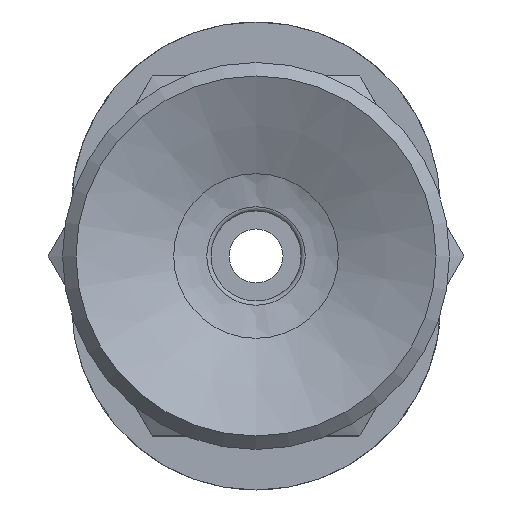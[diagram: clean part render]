
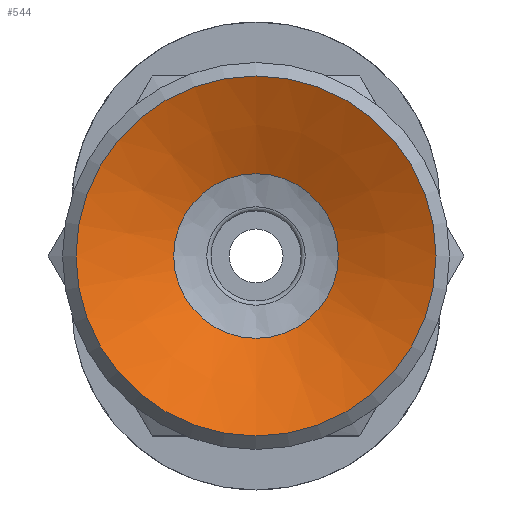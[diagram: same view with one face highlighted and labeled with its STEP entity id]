
A CAD part, front view. The second image highlights one B-rep face of the part: STEP entity #544.
In plain terms, the highlighted conical face has half-angle 65 degrees and reference radius 1.427 mm.
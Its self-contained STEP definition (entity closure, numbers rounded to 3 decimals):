
#544=ADVANCED_FACE('',(#819,#820),#821,.F.);
#819=FACE_BOUND('',#1177,.T.);
#820=FACE_OUTER_BOUND('',#1178,.T.);
#821=CONICAL_SURFACE('',#1179,1.427,1.134);
#1177=EDGE_LOOP('',(#2134));
#1178=EDGE_LOOP('',(#2135));
#1179=AXIS2_PLACEMENT_3D('',#2136,#2137,#2138);
#2134=ORIENTED_EDGE('',*,*,#2621,.T.);
#2135=ORIENTED_EDGE('',*,*,#2608,.T.);
#2136=CARTESIAN_POINT('',(0.0,7.096,0.));
#2137=DIRECTION('',(-0.0,-1.0,0.));
#2138=DIRECTION('',(0.0,0.,-1.0));
#2608=EDGE_CURVE('',#2945,#2945,#2946,.T.);
#2621=EDGE_CURVE('',#2971,#2971,#2972,.T.);
#2945=VERTEX_POINT('',#3657);
#2946=CIRCLE('',#3658,4.0);
#2971=VERTEX_POINT('',#3683);
#2972=CIRCLE('',#3684,1.828);
#3657=CARTESIAN_POINT('',(0.0,5.896,-4.0));
#3658=AXIS2_PLACEMENT_3D('',#4312,#4313,#4314);
#3683=CARTESIAN_POINT('',(0.0,6.909,-1.828));
#3684=AXIS2_PLACEMENT_3D('',#4351,#4352,#4353);
#4312=CARTESIAN_POINT('',(0.0,5.896,0.0));
#4313=DIRECTION('',(0.0,-1.0,0.));
#4314=DIRECTION('',(0.0,0.,-1.0));
#4351=CARTESIAN_POINT('',(0.0,6.909,0.0));
#4352=DIRECTION('',(0.0,1.0,0.));
#4353=DIRECTION('',(0.0,0.,-1.0));
